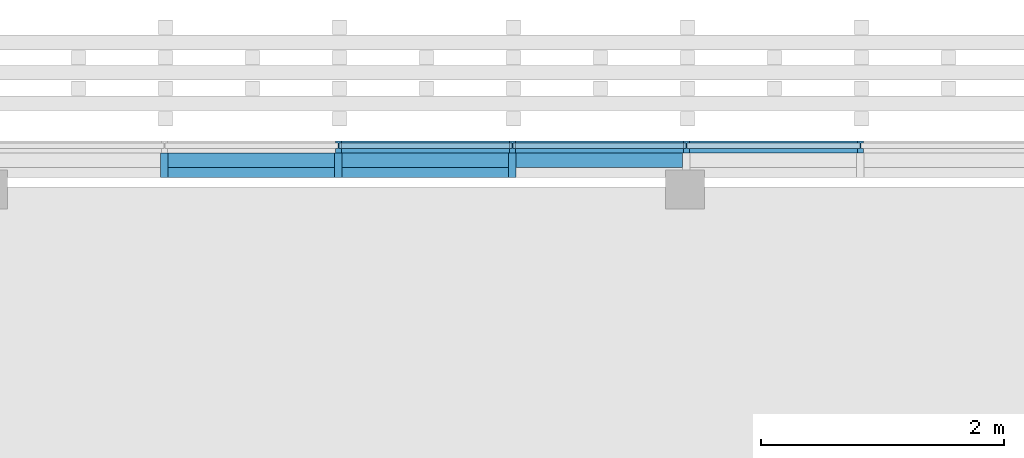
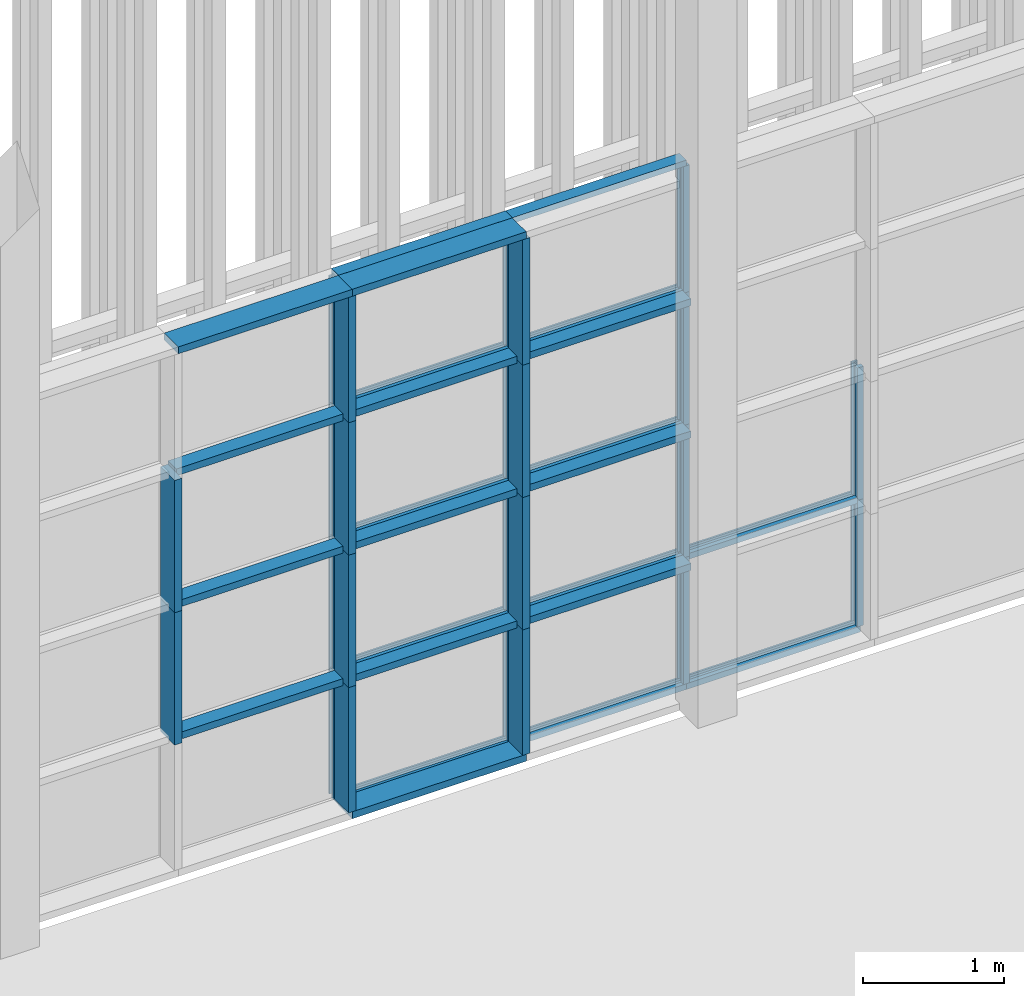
# One storey, part 32 of 260: 48 members, 2 elements without a shape of their own.
"""IFC2X3 building model written with IfcOpenShell, lengths in millimetres."""

from ifc_helpers import new_model, entity, si_unit, converted_unit, derived_unit, money_unit, direction, frame, origin_with_axes, place, context, subcontext, project, spatial, faceted_brep, source, transform, mapped, material, type_object, element, aggregate, save


model = new_model("IFC2X3")

# Units and contexts
model_context = context("Model", 3, precision=0.01, world=origin_with_axes(), true_north=direction((0.0, 1.0)))
body_context = subcontext(model_context, "Body", "Model", "MODEL_VIEW")
ifc_project = project(units=[si_unit("LENGTHUNIT", "METRE", prefix="MILLI"), si_unit("AREAUNIT", "SQUARE_METRE"), si_unit("VOLUMEUNIT", "CUBIC_METRE"), converted_unit("PLANEANGLEUNIT", "DEGREE", entity("IfcPlaneAngleMeasure", 0.0174532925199), si_unit("PLANEANGLEUNIT", "RADIAN"), dimensions=[0, 0, 0, 0, 0, 0, 0]), money_unit("EUR"), converted_unit("TIMEUNIT", "Year", entity("IfcTimeMeasure", 31556926.0), si_unit("TIMEUNIT", "SECOND"), dimensions=[0, 0, 1, 0, 0, 0, 0]), si_unit("MASSUNIT", "GRAM", prefix="KILO"), si_unit("THERMODYNAMICTEMPERATUREUNIT", "DEGREE_CELSIUS"), si_unit("LUMINOUSINTENSITYUNIT", "LUMEN"), si_unit("ENERGYUNIT", "JOULE", prefix="MEGA"), derived_unit("THERMALCONDUCTANCEUNIT", [(si_unit("POWERUNIT", "WATT"), 1), (si_unit("LENGTHUNIT", "METRE"), -1), (si_unit("THERMODYNAMICTEMPERATUREUNIT", "KELVIN"), -1)]), derived_unit("SPECIFICHEATCAPACITYUNIT", [(si_unit("ENERGYUNIT", "JOULE"), 1), (si_unit("MASSUNIT", "GRAM", prefix="KILO"), -1), (si_unit("THERMODYNAMICTEMPERATUREUNIT", "KELVIN"), -1)]), derived_unit("MASSDENSITYUNIT", [(si_unit("MASSUNIT", "GRAM", prefix="KILO"), 1), (si_unit("VOLUMEUNIT", "CUBIC_METRE"), -1)])], contexts=[model_context])

# Site, building, storey
site_placement = place(None, origin_with_axes())
site = spatial("IfcSite", under=ifc_project, at=site_placement, Name="Kolde pst 67a", CompositionType="ELEMENT")
building_placement = place(site_placement, origin_with_axes())
building = spatial("IfcBuilding", under=site, at=building_placement, Name="Riigigümnaasium", CompositionType="ELEMENT")
storey_placement = place(building_placement, origin_with_axes())
storey = spatial("IfcBuildingStorey", under=building, at=storey_placement, Name="1. korrus", CompositionType="ELEMENT", Elevation=0.0)

# Curtain wall, members
curtain_wall_type = type_object("IfcCurtainWallType", Name="Curtain Wall Type", PredefinedType="NOTDEFINED")
curtain_wall_1_placement = place(storey_placement, frame((10366.0828546, 84639.9999608, 0.0), z_axis=(0.0, 0.0, 1.0), x_axis=(1.0, 0.0, 0.0)))
curtain_wall_1 = element("IfcCurtainWall", 1, at=curtain_wall_1_placement, inside=storey, type_object=curtain_wall_type, Name="KLAASFASSAAD")
ifc_material_1 = material(Name="_METALL - alumiinium")
member_type_1 = type_object("IfcMemberType", Name="Boundary Frame 50 x 100", PredefinedType="MEMBER")
shared_shape_1 = source(origin_with_axes(), body_context, "Body", "Brep", [
    faceted_brep([(-30.0, -24.0, 1430.0), (-50.0, -24.0, 1430.0), (-50.0, -60.0, 1430.0), (0.0, -60.0, 1430.0), (0.0, 40.0, 1430.0), (-50.0, 40.0, 1430.0), (-50.0, 24.0, 1430.0), (-30.0, 24.0, 1430.0), (-30.0, -24.0, 0.0), (-50.0, -24.0, 0.0), (-50.0, -60.0, 0.0), (0.0, -60.0, 0.0), (0.0, 40.0, 0.0), (-50.0, 40.0, 0.0), (-50.0, 24.0, 0.0), (-30.0, 24.0, 0.0)], [[[0, 1, 2, 3, 4, 5, 6, 7]], [[0, 8, 9, 1]], [[9, 10, 2, 1]], [[10, 11, 3, 2]], [[11, 12, 4, 3]], [[12, 13, 5, 4]], [[6, 5, 13, 14]], [[14, 15, 7, 6]], [[7, 15, 8, 0]], [[8, 15, 14, 13, 12, 11, 10, 9]]]),
])
member_1_placement = place(curtain_wall_1_placement, frame((2145.0, 0.0, 0.0), z_axis=(1.0, 0.0, 0.0), x_axis=(0.0, 0.0, 1.0)))
member_1 = element("IfcMember", 2, at=member_1_placement, type_object=member_type_1, material=ifc_material_1, Name="RF RAAM SERV-078", ObjectType="MEMBER", context=body_context, shape_type="MappedRepresentation", body=[
    mapped(shared_shape_1, transform((0.0, 0.0, 0.0), x_axis=(-1.0, 0.0, 0.0), y_axis=(0.0, -1.0, 0.0), z_axis=(0.0, 0.0, 1.0))),
])
member_2_placement = place(curtain_wall_1_placement, frame((3575.0, 0.0, 0.0), z_axis=(1.0, 0.0, 0.0), x_axis=(0.0, 0.0, 1.0)))
member_2 = element("IfcMember", 3, at=member_2_placement, type_object=member_type_1, material=ifc_material_1, Name="RF RAAM SERV-079", ObjectType="MEMBER", context=body_context, shape_type="MappedRepresentation", body=[
    mapped(shared_shape_1, transform((0.0, 0.0, 0.0), x_axis=(-1.0, 0.0, 0.0), y_axis=(0.0, -1.0, 0.0), z_axis=(0.0, 0.0, 1.0))),
])
member_3_placement = place(curtain_wall_1_placement, frame((5005.0, 0.0, 0.0), z_axis=(1.0, 0.0, 0.0), x_axis=(0.0, 0.0, 1.0)))
member_3 = element("IfcMember", 4, at=member_3_placement, type_object=member_type_1, material=ifc_material_1, Name="RF RAAM SERV-080", ObjectType="MEMBER", context=body_context, shape_type="MappedRepresentation", body=[
    mapped(shared_shape_1, transform((0.0, 0.0, 0.0), x_axis=(-1.0, 0.0, 0.0), y_axis=(0.0, -1.0, 0.0), z_axis=(0.0, 0.0, 1.0))),
])
member_type_2 = type_object("IfcMemberType", Name="Transom Frame 50 x 100", PredefinedType="MEMBER")
shared_shape_2 = source(origin_with_axes(), body_context, "Body", "Brep", [
    faceted_brep([(5.0, -24.0, 1405.0), (5.0, 24.0, 1405.0), (25.0, 24.0, 1405.0), (25.0, 40.0, 1405.0), (-25.0, 40.0, 1405.0), (-25.0, 24.0, 1405.0), (-5.0, 24.0, 1405.0), (-5.0, -24.0, 1405.0), (-25.0, -24.0, 1405.0), (-25.0, -60.0, 1405.0), (25.0, -60.0, 1405.0), (25.0, -24.0, 1405.0), (5.0, -24.0, 25.0), (5.0, 24.0, 25.0), (25.0, 24.0, 25.0), (25.0, 40.0, 25.0), (-25.0, 40.0, 25.0), (-25.0, 24.0, 25.0), (-5.0, 24.0, 25.0), (-5.0, -24.0, 25.0), (-25.0, -24.0, 25.0), (-25.0, -60.0, 25.0), (25.0, -60.0, 25.0), (25.0, -24.0, 25.0)], [[[0, 1, 2, 3, 4, 5, 6, 7, 8, 9, 10, 11]], [[0, 12, 13, 1]], [[1, 13, 14, 2]], [[14, 15, 3, 2]], [[4, 3, 15, 16]], [[17, 5, 4, 16]], [[5, 17, 18, 6]], [[7, 6, 18, 19]], [[8, 7, 19, 20]], [[8, 20, 21, 9]], [[10, 9, 21, 22]], [[11, 10, 22, 23]], [[11, 23, 12, 0]], [[13, 12, 23, 22, 21, 20, 19, 18, 17, 16, 15, 14]]]),
])
member_4_placement = place(curtain_wall_1_placement, frame((2145.0, 0.0, 1150.0), z_axis=(1.0, 0.0, 0.0), x_axis=(0.0, 0.0, 1.0)))
member_4 = element("IfcMember", 5, at=member_4_placement, type_object=member_type_2, material=ifc_material_1, Name="RF RAAM HOR-798", ObjectType="MEMBER", context=body_context, shape_type="MappedRepresentation", body=[
    mapped(shared_shape_2, transform((0.0, 0.0, 0.0), x_axis=(-1.0, 0.0, 0.0), y_axis=(0.0, -1.0, 0.0), z_axis=(0.0, 0.0, 1.0))),
])
member_5_placement = place(curtain_wall_1_placement, frame((3575.0, 0.0, 1150.0), z_axis=(1.0, 0.0, 0.0), x_axis=(0.0, 0.0, 1.0)))
member_5 = element("IfcMember", 6, at=member_5_placement, type_object=member_type_2, material=ifc_material_1, Name="RF RAAM HOR-798", ObjectType="MEMBER", context=body_context, shape_type="MappedRepresentation", body=[
    mapped(shared_shape_2, transform((0.0, 0.0, 0.0), x_axis=(-1.0, 0.0, 0.0), y_axis=(0.0, -1.0, 0.0), z_axis=(0.0, 0.0, 1.0))),
])
member_6_placement = place(curtain_wall_1_placement, frame((5005.0, 0.0, 1150.0), z_axis=(1.0, 0.0, 0.0), x_axis=(0.0, 0.0, 1.0)))
member_6 = element("IfcMember", 7, at=member_6_placement, type_object=member_type_2, material=ifc_material_1, Name="RF RAAM HOR-798", ObjectType="MEMBER", context=body_context, shape_type="MappedRepresentation", body=[
    mapped(shared_shape_2, transform((0.0, 0.0, 0.0), x_axis=(-1.0, 0.0, 0.0), y_axis=(0.0, -1.0, 0.0), z_axis=(0.0, 0.0, 1.0))),
])
member_7_placement = place(curtain_wall_1_placement, frame((2145.0, 0.0, 2300.0), z_axis=(1.0, 0.0, 0.0), x_axis=(0.0, 0.0, 1.0)))
member_7 = element("IfcMember", 8, at=member_7_placement, type_object=member_type_2, material=ifc_material_1, Name="RF RAAM HOR-798", ObjectType="MEMBER", context=body_context, shape_type="MappedRepresentation", body=[
    mapped(shared_shape_2, transform((0.0, 0.0, 0.0), x_axis=(-1.0, 0.0, 0.0), y_axis=(0.0, -1.0, 0.0), z_axis=(0.0, 0.0, 1.0))),
])
member_8_placement = place(curtain_wall_1_placement, frame((3575.0, 0.0, 2300.0), z_axis=(1.0, 0.0, 0.0), x_axis=(0.0, 0.0, 1.0)))
member_8 = element("IfcMember", 9, at=member_8_placement, type_object=member_type_2, material=ifc_material_1, Name="RF RAAM HOR-798", ObjectType="MEMBER", context=body_context, shape_type="MappedRepresentation", body=[
    mapped(shared_shape_2, transform((0.0, 0.0, 0.0), x_axis=(-1.0, 0.0, 0.0), y_axis=(0.0, -1.0, 0.0), z_axis=(0.0, 0.0, 1.0))),
])
member_9_placement = place(curtain_wall_1_placement, frame((2145.0, 0.0, 3450.0), z_axis=(1.0, 0.0, 0.0), x_axis=(0.0, 0.0, 1.0)))
member_9 = element("IfcMember", 10, at=member_9_placement, type_object=member_type_2, material=ifc_material_1, Name="RF RAAM HOR-798", ObjectType="MEMBER", context=body_context, shape_type="MappedRepresentation", body=[
    mapped(shared_shape_2, transform((0.0, 0.0, 0.0), x_axis=(-1.0, 0.0, 0.0), y_axis=(0.0, -1.0, 0.0), z_axis=(0.0, 0.0, 1.0))),
])
member_10_placement = place(curtain_wall_1_placement, frame((3575.0, 0.0, 3450.0), z_axis=(1.0, 0.0, 0.0), x_axis=(0.0, 0.0, 1.0)))
member_10 = element("IfcMember", 11, at=member_10_placement, type_object=member_type_2, material=ifc_material_1, Name="RF RAAM HOR-798", ObjectType="MEMBER", context=body_context, shape_type="MappedRepresentation", body=[
    mapped(shared_shape_2, transform((0.0, 0.0, 0.0), x_axis=(-1.0, 0.0, 0.0), y_axis=(0.0, -1.0, 0.0), z_axis=(0.0, 0.0, 1.0))),
])
member_type_3 = type_object("IfcMemberType", Name="Mullion Frame 50 x 100", PredefinedType="MEMBER")
shared_shape_3 = source(origin_with_axes(), body_context, "Body", "Brep", [
    faceted_brep([(5.0, -24.0, 1150.0), (5.0, 24.0, 1150.0), (25.0, 24.0, 1150.0), (25.0, 40.0, 1150.0), (-25.0, 40.0, 1150.0), (-25.0, 24.0, 1150.0), (-5.0, 24.0, 1150.0), (-5.0, -24.0, 1150.0), (-25.0, -24.0, 1150.0), (-25.0, -60.0, 1150.0), (25.0, -60.0, 1150.0), (25.0, -24.0, 1150.0), (5.0, -24.0, 50.0), (5.0, 24.0, 50.0), (25.0, 24.0, 50.0), (25.0, 40.0, 50.0), (-25.0, 40.0, 50.0), (-25.0, 24.0, 50.0), (-5.0, 24.0, 50.0), (-5.0, -24.0, 50.0), (-25.0, -24.0, 50.0), (-25.0, -60.0, 50.0), (25.0, -60.0, 50.0), (25.0, -24.0, 50.0)], [[[0, 1, 2, 3, 4, 5, 6, 7, 8, 9, 10, 11]], [[0, 12, 13, 1]], [[1, 13, 14, 2]], [[14, 15, 3, 2]], [[4, 3, 15, 16]], [[17, 5, 4, 16]], [[5, 17, 18, 6]], [[7, 6, 18, 19]], [[8, 7, 19, 20]], [[8, 20, 21, 9]], [[10, 9, 21, 22]], [[11, 10, 22, 23]], [[11, 23, 12, 0]], [[13, 12, 23, 22, 21, 20, 19, 18, 17, 16, 15, 14]]]),
])
member_11_placement = place(curtain_wall_1_placement, frame((2145.0, 0.0, 0.0), z_axis=(0.0, 0.0, 1.0), x_axis=(-1.0, 0.0, 0.0)))
member_11 = element("IfcMember", 12, at=member_11_placement, type_object=member_type_3, material=ifc_material_1, Name="RF RAAM VERT-904", ObjectType="MEMBER", context=body_context, shape_type="MappedRepresentation", body=[
    mapped(shared_shape_3, transform((0.0, 0.0, 0.0), x_axis=(-1.0, 0.0, 0.0), y_axis=(0.0, -1.0, 0.0), z_axis=(0.0, 0.0, 1.0))),
])
member_12_placement = place(curtain_wall_1_placement, frame((3575.0, 0.0, 0.0), z_axis=(0.0, 0.0, 1.0), x_axis=(-1.0, 0.0, 0.0)))
member_12 = element("IfcMember", 13, at=member_12_placement, type_object=member_type_3, material=ifc_material_1, Name="RF RAAM VERT-904", ObjectType="MEMBER", context=body_context, shape_type="MappedRepresentation", body=[
    mapped(shared_shape_3, transform((0.0, 0.0, 0.0), x_axis=(-1.0, 0.0, 0.0), y_axis=(0.0, -1.0, 0.0), z_axis=(0.0, 0.0, 1.0))),
])
member_13_placement = place(curtain_wall_1_placement, frame((5005.0, 0.0, 0.0), z_axis=(0.0, 0.0, 1.0), x_axis=(-1.0, 0.0, 0.0)))
member_13 = element("IfcMember", 14, at=member_13_placement, type_object=member_type_3, material=ifc_material_1, Name="RF RAAM VERT-904", ObjectType="MEMBER", context=body_context, shape_type="MappedRepresentation", body=[
    mapped(shared_shape_3, transform((0.0, 0.0, 0.0), x_axis=(-1.0, 0.0, 0.0), y_axis=(0.0, -1.0, 0.0), z_axis=(0.0, 0.0, 1.0))),
])
member_14_placement = place(curtain_wall_1_placement, frame((6435.0, 0.0, 0.0), z_axis=(0.0, 0.0, 1.0), x_axis=(-1.0, 0.0, 0.0)))
member_14 = element("IfcMember", 15, at=member_14_placement, type_object=member_type_3, material=ifc_material_1, Name="RF RAAM VERT-904", ObjectType="MEMBER", context=body_context, shape_type="MappedRepresentation", body=[
    mapped(shared_shape_3, transform((0.0, 0.0, 0.0), x_axis=(-1.0, 0.0, 0.0), y_axis=(0.0, -1.0, 0.0), z_axis=(0.0, 0.0, 1.0))),
])
shared_shape_4 = source(origin_with_axes(), body_context, "Body", "Brep", [
    faceted_brep([(5.0, -24.0, 1150.0), (5.0, 24.0, 1150.0), (25.0, 24.0, 1150.0), (25.0, 40.0, 1150.0), (-25.0, 40.0, 1150.0), (-25.0, 24.0, 1150.0), (-5.0, 24.0, 1150.0), (-5.0, -24.0, 1150.0), (-25.0, -24.0, 1150.0), (-25.0, -60.0, 1150.0), (25.0, -60.0, 1150.0), (25.0, -24.0, 1150.0), (5.0, -24.0, 0.0), (5.0, 24.0, 0.0), (25.0, 24.0, 0.0), (25.0, 40.0, 0.0), (-25.0, 40.0, 0.0), (-25.0, 24.0, 0.0), (-5.0, 24.0, 0.0), (-5.0, -24.0, 0.0), (-25.0, -24.0, 0.0), (-25.0, -60.0, 0.0), (25.0, -60.0, 0.0), (25.0, -24.0, 0.0)], [[[0, 1, 2, 3, 4, 5, 6, 7, 8, 9, 10, 11]], [[0, 12, 13, 1]], [[1, 13, 14, 2]], [[14, 15, 3, 2]], [[3, 15, 16, 4]], [[17, 5, 4, 16]], [[5, 17, 18, 6]], [[7, 6, 18, 19]], [[8, 7, 19, 20]], [[8, 20, 21, 9]], [[9, 21, 22, 10]], [[11, 10, 22, 23]], [[11, 23, 12, 0]], [[13, 12, 23, 22, 21, 20, 19, 18, 17, 16, 15, 14]]]),
])
member_15_placement = place(curtain_wall_1_placement, frame((2145.0, 0.0, 1150.0), z_axis=(0.0, 0.0, 1.0), x_axis=(-1.0, 0.0, 0.0)))
member_15 = element("IfcMember", 16, at=member_15_placement, type_object=member_type_3, material=ifc_material_1, Name="RF RAAM VERT-904", ObjectType="MEMBER", context=body_context, shape_type="MappedRepresentation", body=[
    mapped(shared_shape_4, transform((0.0, 0.0, 0.0), x_axis=(-1.0, 0.0, 0.0), y_axis=(0.0, -1.0, 0.0), z_axis=(0.0, 0.0, 1.0))),
])
member_16_placement = place(curtain_wall_1_placement, frame((3575.0, 0.0, 1150.0), z_axis=(0.0, 0.0, 1.0), x_axis=(-1.0, 0.0, 0.0)))
member_16 = element("IfcMember", 17, at=member_16_placement, type_object=member_type_3, material=ifc_material_1, Name="RF RAAM VERT-904", ObjectType="MEMBER", context=body_context, shape_type="MappedRepresentation", body=[
    mapped(shared_shape_4, transform((0.0, 0.0, 0.0), x_axis=(-1.0, 0.0, 0.0), y_axis=(0.0, -1.0, 0.0), z_axis=(0.0, 0.0, 1.0))),
])
member_17_placement = place(curtain_wall_1_placement, frame((5005.0, 0.0, 1150.0), z_axis=(0.0, 0.0, 1.0), x_axis=(-1.0, 0.0, 0.0)))
member_17 = element("IfcMember", 18, at=member_17_placement, type_object=member_type_3, material=ifc_material_1, Name="RF RAAM VERT-904", ObjectType="MEMBER", context=body_context, shape_type="MappedRepresentation", body=[
    mapped(shared_shape_4, transform((0.0, 0.0, 0.0), x_axis=(-1.0, 0.0, 0.0), y_axis=(0.0, -1.0, 0.0), z_axis=(0.0, 0.0, 1.0))),
])
member_18_placement = place(curtain_wall_1_placement, frame((6435.0, 0.0, 1150.0), z_axis=(0.0, 0.0, 1.0), x_axis=(-1.0, 0.0, 0.0)))
member_18 = element("IfcMember", 19, at=member_18_placement, type_object=member_type_3, material=ifc_material_1, Name="RF RAAM VERT-904", ObjectType="MEMBER", context=body_context, shape_type="MappedRepresentation", body=[
    mapped(shared_shape_4, transform((0.0, 0.0, 0.0), x_axis=(-1.0, 0.0, 0.0), y_axis=(0.0, -1.0, 0.0), z_axis=(0.0, 0.0, 1.0))),
])
member_19_placement = place(curtain_wall_1_placement, frame((2145.0, 0.0, 2300.0), z_axis=(0.0, 0.0, 1.0), x_axis=(-1.0, 0.0, 0.0)))
member_19 = element("IfcMember", 20, at=member_19_placement, type_object=member_type_3, material=ifc_material_1, Name="RF RAAM VERT-904", ObjectType="MEMBER", context=body_context, shape_type="MappedRepresentation", body=[
    mapped(shared_shape_4, transform((0.0, 0.0, 0.0), x_axis=(-1.0, 0.0, 0.0), y_axis=(0.0, -1.0, 0.0), z_axis=(0.0, 0.0, 1.0))),
])
member_20_placement = place(curtain_wall_1_placement, frame((3575.0, 0.0, 2300.0), z_axis=(0.0, 0.0, 1.0), x_axis=(-1.0, 0.0, 0.0)))
member_20 = element("IfcMember", 21, at=member_20_placement, type_object=member_type_3, material=ifc_material_1, Name="RF RAAM VERT-904", ObjectType="MEMBER", context=body_context, shape_type="MappedRepresentation", body=[
    mapped(shared_shape_4, transform((0.0, 0.0, 0.0), x_axis=(-1.0, 0.0, 0.0), y_axis=(0.0, -1.0, 0.0), z_axis=(0.0, 0.0, 1.0))),
])
member_21_placement = place(curtain_wall_1_placement, frame((5005.0, 0.0, 2300.0), z_axis=(0.0, 0.0, 1.0), x_axis=(-1.0, 0.0, 0.0)))
member_21 = element("IfcMember", 22, at=member_21_placement, type_object=member_type_3, material=ifc_material_1, Name="RF RAAM VERT-904", ObjectType="MEMBER", context=body_context, shape_type="MappedRepresentation", body=[
    mapped(shared_shape_4, transform((0.0, 0.0, 0.0), x_axis=(-1.0, 0.0, 0.0), y_axis=(0.0, -1.0, 0.0), z_axis=(0.0, 0.0, 1.0))),
])
shared_shape_5 = source(origin_with_axes(), body_context, "Body", "Brep", [
    faceted_brep([(5.0, -24.0, 1100.0), (5.0, 24.0, 1100.0), (25.0, 24.0, 1100.0), (25.0, 40.0, 1100.0), (-25.0, 40.0, 1100.0), (-25.0, 24.0, 1100.0), (-5.0, 24.0, 1100.0), (-5.0, -24.0, 1100.0), (-25.0, -24.0, 1100.0), (-25.0, -60.0, 1100.0), (25.0, -60.0, 1100.0), (25.0, -24.0, 1100.0), (5.0, -24.0, 0.0), (5.0, 24.0, 0.0), (25.0, 24.0, 0.0), (25.0, 40.0, 0.0), (-25.0, 40.0, 0.0), (-25.0, 24.0, 0.0), (-5.0, 24.0, 0.0), (-5.0, -24.0, 0.0), (-25.0, -24.0, 0.0), (-25.0, -60.0, 0.0), (25.0, -60.0, 0.0), (25.0, -24.0, 0.0)], [[[0, 1, 2, 3, 4, 5, 6, 7, 8, 9, 10, 11]], [[0, 12, 13, 1]], [[1, 13, 14, 2]], [[14, 15, 3, 2]], [[3, 15, 16, 4]], [[17, 5, 4, 16]], [[5, 17, 18, 6]], [[7, 6, 18, 19]], [[8, 7, 19, 20]], [[8, 20, 21, 9]], [[9, 21, 22, 10]], [[11, 10, 22, 23]], [[11, 23, 12, 0]], [[13, 12, 23, 22, 21, 20, 19, 18, 17, 16, 15, 14]]]),
])
member_22_placement = place(curtain_wall_1_placement, frame((2145.0, 0.0, 3450.0), z_axis=(0.0, 0.0, 1.0), x_axis=(-1.0, 0.0, 0.0)))
member_22 = element("IfcMember", 23, at=member_22_placement, type_object=member_type_3, material=ifc_material_1, Name="RF RAAM VERT-226", ObjectType="MEMBER", context=body_context, shape_type="MappedRepresentation", body=[
    mapped(shared_shape_5, transform((0.0, 0.0, 0.0), x_axis=(-1.0, 0.0, 0.0), y_axis=(0.0, -1.0, 0.0), z_axis=(0.0, 0.0, 1.0))),
])
member_23_placement = place(curtain_wall_1_placement, frame((3575.0, 0.0, 3450.0), z_axis=(0.0, 0.0, 1.0), x_axis=(-1.0, 0.0, 0.0)))
member_23 = element("IfcMember", 24, at=member_23_placement, type_object=member_type_3, material=ifc_material_1, Name="RF RAAM VERT-227", ObjectType="MEMBER", context=body_context, shape_type="MappedRepresentation", body=[
    mapped(shared_shape_5, transform((0.0, 0.0, 0.0), x_axis=(-1.0, 0.0, 0.0), y_axis=(0.0, -1.0, 0.0), z_axis=(0.0, 0.0, 1.0))),
])
member_24_placement = place(curtain_wall_1_placement, frame((5005.0, 0.0, 3450.0), z_axis=(0.0, 0.0, 1.0), x_axis=(-1.0, 0.0, 0.0)))
member_24 = element("IfcMember", 25, at=member_24_placement, type_object=member_type_3, material=ifc_material_1, Name="RF RAAM VERT-228", ObjectType="MEMBER", context=body_context, shape_type="MappedRepresentation", body=[
    mapped(shared_shape_5, transform((0.0, 0.0, 0.0), x_axis=(-1.0, 0.0, 0.0), y_axis=(0.0, -1.0, 0.0), z_axis=(0.0, 0.0, 1.0))),
])
shared_shape_6 = source(origin_with_axes(), body_context, "Body", "Brep", [
    faceted_brep([(30.0, -24.0, 1430.0), (30.0, 24.0, 1430.0), (50.0, 24.0, 1430.0), (50.0, 40.0, 1430.0), (0.0, 40.0, 1430.0), (0.0, -60.0, 1430.0), (50.0, -60.0, 1430.0), (50.0, -24.0, 1430.0), (30.0, -24.0, 0.0), (30.0, 24.0, 0.0), (50.0, 24.0, 0.0), (50.0, 40.0, 0.0), (0.0, 40.0, 0.0), (0.0, -60.0, 0.0), (50.0, -60.0, 0.0), (50.0, -24.0, 0.0)], [[[0, 1, 2, 3, 4, 5, 6, 7]], [[1, 0, 8, 9]], [[10, 2, 1, 9]], [[2, 10, 11, 3]], [[12, 4, 3, 11]], [[13, 5, 4, 12]], [[14, 6, 5, 13]], [[15, 7, 6, 14]], [[0, 7, 15, 8]], [[8, 15, 14, 13, 12, 11, 10, 9]]]),
])
member_25_placement = place(curtain_wall_1_placement, frame((2145.0, 0.0, 4600.0), z_axis=(1.0, 0.0, 0.0), x_axis=(0.0, 0.0, 1.0)))
member_25 = element("IfcMember", 26, at=member_25_placement, type_object=member_type_1, material=ifc_material_1, Name="RF RAAM SERV-115", ObjectType="MEMBER", context=body_context, shape_type="MappedRepresentation", body=[
    mapped(shared_shape_6, transform((0.0, 0.0, 0.0), x_axis=(-1.0, 0.0, 0.0), y_axis=(0.0, -1.0, 0.0), z_axis=(0.0, 0.0, 1.0))),
])
member_26_placement = place(curtain_wall_1_placement, frame((3575.0, 0.0, 4600.0), z_axis=(1.0, 0.0, 0.0), x_axis=(0.0, 0.0, 1.0)))
member_26 = element("IfcMember", 27, at=member_26_placement, type_object=member_type_1, material=ifc_material_1, Name="RF RAAM SERV-114", ObjectType="MEMBER", context=body_context, shape_type="MappedRepresentation", body=[
    mapped(shared_shape_6, transform((0.0, 0.0, 0.0), x_axis=(-1.0, 0.0, 0.0), y_axis=(0.0, -1.0, 0.0), z_axis=(0.0, 0.0, 1.0))),
])
aggregate(curtain_wall_1, [member_1, member_11, member_2, member_12, member_3, member_13, member_14, member_4, member_15, member_5, member_16, member_6, member_17, member_18, member_7, member_19, member_8, member_20, member_21, member_9, member_10, member_22, member_23, member_24, member_25, member_26])

curtain_wall_2_placement = place(storey_placement, frame((7516.12873899, 84579.9999608, 0.0), z_axis=(0.0, 0.0, 1.0), x_axis=(1.0, 0.0, 0.0)))
curtain_wall_2 = element("IfcCurtainWall", 28, at=curtain_wall_2_placement, inside=storey, type_object=curtain_wall_type, Name="Klaasfassaadi puitkarkass")
ifc_material_2 = material(Name="_KANDETARIND - liimpuit vastavalt EK osale")
member_type_4 = type_object("IfcMemberType", Name="Mullion Frame 60 x 200", PredefinedType="MEMBER")
shared_shape_7 = source(origin_with_axes(), body_context, "Body", "Brep", [
    faceted_brep([(-30.0, -200.0, 0.0), (-30.0, -200.0, 1090.0), (-30.0, 0.0, 1090.0), (-30.0, 0.0, 0.0), (30.0, -200.0, 0.0), (30.0, -200.0, 1090.0), (30.0, 0.0, 1090.0), (30.0, 0.0, 0.0)], [[[0, 1, 2, 3]], [[4, 5, 1, 0]], [[1, 5, 6, 2]], [[3, 2, 6, 7]], [[0, 3, 7, 4]], [[7, 6, 5, 4]]]),
])
member_27_placement = place(curtain_wall_2_placement, frame((6423.62846741, 0.0, 3450.0), z_axis=(0.0, 0.0, 1.0), x_axis=(-1.0, 0.0, 0.0)))
member_27 = element("IfcMember", 29, at=member_27_placement, type_object=member_type_4, material=ifc_material_2, Name="RF RAAM VERT-675", ObjectType="MEMBER", context=body_context, shape_type="MappedRepresentation", body=[
    mapped(shared_shape_7, transform((0.0, 0.0, 0.0), x_axis=(-1.0, 0.0, 0.0), y_axis=(0.0, -1.0, 0.0), z_axis=(0.0, 0.0, 1.0))),
])
member_28_placement = place(curtain_wall_2_placement, frame((4993.62846741, 0.0, 3450.0), z_axis=(0.0, 0.0, 1.0), x_axis=(-1.0, 0.0, 0.0)))
member_28 = element("IfcMember", 30, at=member_28_placement, type_object=member_type_4, material=ifc_material_2, Name="RF RAAM VERT-674", ObjectType="MEMBER", context=body_context, shape_type="MappedRepresentation", body=[
    mapped(shared_shape_7, transform((0.0, 0.0, 0.0), x_axis=(-1.0, 0.0, 0.0), y_axis=(0.0, -1.0, 0.0), z_axis=(0.0, 0.0, 1.0))),
])
member_type_5 = type_object("IfcMemberType", Name="Boundary Frame 60 x 200", PredefinedType="MEMBER")
shared_shape_8 = source(origin_with_axes(), body_context, "Body", "Brep", [
    faceted_brep([(-60.0, -200.0, 0.0), (-60.0, -200.0, 1430.0), (-60.0, 0.0, 1430.0), (-60.0, 0.0, 0.0), (0.0, -200.0, 0.0), (0.0, -200.0, 1430.0), (0.0, 0.0, 1430.0), (0.0, 0.0, 0.0)], [[[0, 1, 2, 3]], [[4, 5, 1, 0]], [[1, 5, 6, 2]], [[3, 2, 6, 7]], [[0, 3, 7, 4]], [[7, 6, 5, 4]]]),
])
member_29_placement = place(curtain_wall_2_placement, frame((4993.62846741, 0.0, 0.0), z_axis=(1.0, 0.0, 0.0), x_axis=(0.0, 0.0, 1.0)))
member_29 = element("IfcMember", 31, at=member_29_placement, type_object=member_type_5, material=ifc_material_2, Name="RF RAAM SERV-414", ObjectType="MEMBER", context=body_context, shape_type="MappedRepresentation", body=[
    mapped(shared_shape_8, transform((0.0, 0.0, 0.0), x_axis=(-1.0, 0.0, 0.0), y_axis=(0.0, -1.0, 0.0), z_axis=(0.0, 0.0, 1.0))),
])
shared_shape_9 = source(origin_with_axes(), body_context, "Body", "Brep", [
    faceted_brep([(-30.0, 0.0, 60.0), (-30.0, -200.0, 60.0), (-30.0, -200.0, 1150.0), (-30.0, 0.0, 1150.0), (30.0, 0.0, 60.0), (30.0, -200.0, 60.0), (30.0, -200.0, 1150.0), (30.0, 0.0, 1150.0)], [[[0, 1, 2, 3]], [[1, 0, 4, 5]], [[1, 5, 6, 2]], [[2, 6, 7, 3]], [[4, 0, 3, 7]], [[5, 4, 7, 6]]]),
])
member_30_placement = place(curtain_wall_2_placement, frame((4993.62846741, 0.0, 0.0), z_axis=(0.0, 0.0, 1.0), x_axis=(-1.0, 0.0, 0.0)))
member_30 = element("IfcMember", 32, at=member_30_placement, type_object=member_type_4, material=ifc_material_2, Name="RF RAAM VERT-459", ObjectType="MEMBER", context=body_context, shape_type="MappedRepresentation", body=[
    mapped(shared_shape_9, transform((0.0, 0.0, 0.0), x_axis=(-1.0, 0.0, 0.0), y_axis=(0.0, -1.0, 0.0), z_axis=(0.0, 0.0, 1.0))),
])
member_31_placement = place(curtain_wall_2_placement, frame((6423.62846741, 0.0, 0.0), z_axis=(0.0, 0.0, 1.0), x_axis=(-1.0, 0.0, 0.0)))
member_31 = element("IfcMember", 33, at=member_31_placement, type_object=member_type_4, material=ifc_material_2, Name="RF RAAM VERT-460", ObjectType="MEMBER", context=body_context, shape_type="MappedRepresentation", body=[
    mapped(shared_shape_9, transform((0.0, 0.0, 0.0), x_axis=(-1.0, 0.0, 0.0), y_axis=(0.0, -1.0, 0.0), z_axis=(0.0, 0.0, 1.0))),
])
member_type_6 = type_object("IfcMemberType", Name="Transom Frame 60 x 120", PredefinedType="MEMBER")
shared_shape_10 = source(origin_with_axes(), body_context, "Body", "Brep", [
    faceted_brep([(-30.0, 0.0, 30.0), (-30.0, -120.0, 30.0), (-30.0, -120.0, 1400.0), (-30.0, 0.0, 1400.0), (30.0, 0.0, 30.0), (30.0, -120.0, 30.0), (30.0, -120.0, 1400.0), (30.0, 0.0, 1400.0)], [[[0, 1, 2, 3]], [[1, 0, 4, 5]], [[1, 5, 6, 2]], [[2, 6, 7, 3]], [[4, 0, 3, 7]], [[5, 4, 7, 6]]]),
])
member_32_placement = place(curtain_wall_2_placement, frame((3563.62846741, 0.0, 1150.0), z_axis=(1.0, 0.0, 0.0), x_axis=(0.0, 0.0, 1.0)))
member_32 = element("IfcMember", 34, at=member_32_placement, type_object=member_type_6, material=ifc_material_2, Name="RF RAAM HOR-453", ObjectType="MEMBER", context=body_context, shape_type="MappedRepresentation", body=[
    mapped(shared_shape_10, transform((0.0, 0.0, 0.0), x_axis=(-1.0, 0.0, 0.0), y_axis=(0.0, -1.0, 0.0), z_axis=(0.0, 0.0, 1.0))),
])
member_33_placement = place(curtain_wall_2_placement, frame((4993.62846741, 0.0, 1150.0), z_axis=(1.0, 0.0, 0.0), x_axis=(0.0, 0.0, 1.0)))
member_33 = element("IfcMember", 35, at=member_33_placement, type_object=member_type_6, material=ifc_material_2, Name="RF RAAM HOR-454", ObjectType="MEMBER", context=body_context, shape_type="MappedRepresentation", body=[
    mapped(shared_shape_10, transform((0.0, 0.0, 0.0), x_axis=(-1.0, 0.0, 0.0), y_axis=(0.0, -1.0, 0.0), z_axis=(0.0, 0.0, 1.0))),
])
member_34_placement = place(curtain_wall_2_placement, frame((6423.62846741, 0.0, 1150.0), z_axis=(1.0, 0.0, 0.0), x_axis=(0.0, 0.0, 1.0)))
member_34 = element("IfcMember", 36, at=member_34_placement, type_object=member_type_6, material=ifc_material_2, Name="RF RAAM HOR-455", ObjectType="MEMBER", context=body_context, shape_type="MappedRepresentation", body=[
    mapped(shared_shape_10, transform((0.0, 0.0, 0.0), x_axis=(-1.0, 0.0, 0.0), y_axis=(0.0, -1.0, 0.0), z_axis=(0.0, 0.0, 1.0))),
])
member_35_placement = place(curtain_wall_2_placement, frame((3563.62846741, 0.0, 2300.0), z_axis=(1.0, 0.0, 0.0), x_axis=(0.0, 0.0, 1.0)))
member_35 = element("IfcMember", 37, at=member_35_placement, type_object=member_type_6, material=ifc_material_2, Name="RF RAAM HOR-476", ObjectType="MEMBER", context=body_context, shape_type="MappedRepresentation", body=[
    mapped(shared_shape_10, transform((0.0, 0.0, 0.0), x_axis=(-1.0, 0.0, 0.0), y_axis=(0.0, -1.0, 0.0), z_axis=(0.0, 0.0, 1.0))),
])
member_36_placement = place(curtain_wall_2_placement, frame((4993.62846741, 0.0, 2300.0), z_axis=(1.0, 0.0, 0.0), x_axis=(0.0, 0.0, 1.0)))
member_36 = element("IfcMember", 38, at=member_36_placement, type_object=member_type_6, material=ifc_material_2, Name="RF RAAM HOR-477", ObjectType="MEMBER", context=body_context, shape_type="MappedRepresentation", body=[
    mapped(shared_shape_10, transform((0.0, 0.0, 0.0), x_axis=(-1.0, 0.0, 0.0), y_axis=(0.0, -1.0, 0.0), z_axis=(0.0, 0.0, 1.0))),
])
member_37_placement = place(curtain_wall_2_placement, frame((6423.62846741, 0.0, 2300.0), z_axis=(1.0, 0.0, 0.0), x_axis=(0.0, 0.0, 1.0)))
member_37 = element("IfcMember", 39, at=member_37_placement, type_object=member_type_6, material=ifc_material_2, Name="RF RAAM HOR-478", ObjectType="MEMBER", context=body_context, shape_type="MappedRepresentation", body=[
    mapped(shared_shape_10, transform((0.0, 0.0, 0.0), x_axis=(-1.0, 0.0, 0.0), y_axis=(0.0, -1.0, 0.0), z_axis=(0.0, 0.0, 1.0))),
])
member_38_placement = place(curtain_wall_2_placement, frame((3563.62846741, 0.0, 3450.0), z_axis=(1.0, 0.0, 0.0), x_axis=(0.0, 0.0, 1.0)))
member_38 = element("IfcMember", 40, at=member_38_placement, type_object=member_type_6, material=ifc_material_2, Name="RF RAAM HOR-499", ObjectType="MEMBER", context=body_context, shape_type="MappedRepresentation", body=[
    mapped(shared_shape_10, transform((0.0, 0.0, 0.0), x_axis=(-1.0, 0.0, 0.0), y_axis=(0.0, -1.0, 0.0), z_axis=(0.0, 0.0, 1.0))),
])
member_39_placement = place(curtain_wall_2_placement, frame((4993.62846741, 0.0, 3450.0), z_axis=(1.0, 0.0, 0.0), x_axis=(0.0, 0.0, 1.0)))
member_39 = element("IfcMember", 41, at=member_39_placement, type_object=member_type_6, material=ifc_material_2, Name="RF RAAM HOR-500", ObjectType="MEMBER", context=body_context, shape_type="MappedRepresentation", body=[
    mapped(shared_shape_10, transform((0.0, 0.0, 0.0), x_axis=(-1.0, 0.0, 0.0), y_axis=(0.0, -1.0, 0.0), z_axis=(0.0, 0.0, 1.0))),
])
member_40_placement = place(curtain_wall_2_placement, frame((6423.62846741, 0.0, 3450.0), z_axis=(1.0, 0.0, 0.0), x_axis=(0.0, 0.0, 1.0)))
member_40 = element("IfcMember", 42, at=member_40_placement, type_object=member_type_6, material=ifc_material_2, Name="RF RAAM HOR-501", ObjectType="MEMBER", context=body_context, shape_type="MappedRepresentation", body=[
    mapped(shared_shape_10, transform((0.0, 0.0, 0.0), x_axis=(-1.0, 0.0, 0.0), y_axis=(0.0, -1.0, 0.0), z_axis=(0.0, 0.0, 1.0))),
])
shared_shape_11 = source(origin_with_axes(), body_context, "Body", "Brep", [
    faceted_brep([(-30.0, -200.0, 0.0), (-30.0, -200.0, 1150.0), (-30.0, 0.0, 1150.0), (-30.0, 0.0, 0.0), (30.0, -200.0, 0.0), (30.0, -200.0, 1150.0), (30.0, 0.0, 1150.0), (30.0, 0.0, 0.0)], [[[0, 1, 2, 3]], [[4, 5, 1, 0]], [[1, 5, 6, 2]], [[3, 2, 6, 7]], [[0, 3, 7, 4]], [[7, 6, 5, 4]]]),
])
member_41_placement = place(curtain_wall_2_placement, frame((3563.62846741, 0.0, 1150.0), z_axis=(0.0, 0.0, 1.0), x_axis=(-1.0, 0.0, 0.0)))
member_41 = element("IfcMember", 43, at=member_41_placement, type_object=member_type_4, material=ifc_material_2, Name="RF RAAM VERT-480", ObjectType="MEMBER", context=body_context, shape_type="MappedRepresentation", body=[
    mapped(shared_shape_11, transform((0.0, 0.0, 0.0), x_axis=(-1.0, 0.0, 0.0), y_axis=(0.0, -1.0, 0.0), z_axis=(0.0, 0.0, 1.0))),
])
member_42_placement = place(curtain_wall_2_placement, frame((4993.62846741, 0.0, 1150.0), z_axis=(0.0, 0.0, 1.0), x_axis=(-1.0, 0.0, 0.0)))
member_42 = element("IfcMember", 44, at=member_42_placement, type_object=member_type_4, material=ifc_material_2, Name="RF RAAM VERT-481", ObjectType="MEMBER", context=body_context, shape_type="MappedRepresentation", body=[
    mapped(shared_shape_11, transform((0.0, 0.0, 0.0), x_axis=(-1.0, 0.0, 0.0), y_axis=(0.0, -1.0, 0.0), z_axis=(0.0, 0.0, 1.0))),
])
member_43_placement = place(curtain_wall_2_placement, frame((6423.62846741, 0.0, 1150.0), z_axis=(0.0, 0.0, 1.0), x_axis=(-1.0, 0.0, 0.0)))
member_43 = element("IfcMember", 45, at=member_43_placement, type_object=member_type_4, material=ifc_material_2, Name="RF RAAM VERT-482", ObjectType="MEMBER", context=body_context, shape_type="MappedRepresentation", body=[
    mapped(shared_shape_11, transform((0.0, 0.0, 0.0), x_axis=(-1.0, 0.0, 0.0), y_axis=(0.0, -1.0, 0.0), z_axis=(0.0, 0.0, 1.0))),
])
member_44_placement = place(curtain_wall_2_placement, frame((3563.62846741, 0.0, 2300.0), z_axis=(0.0, 0.0, 1.0), x_axis=(-1.0, 0.0, 0.0)))
member_44 = element("IfcMember", 46, at=member_44_placement, type_object=member_type_4, material=ifc_material_2, Name="RF RAAM VERT-502", ObjectType="MEMBER", context=body_context, shape_type="MappedRepresentation", body=[
    mapped(shared_shape_11, transform((0.0, 0.0, 0.0), x_axis=(-1.0, 0.0, 0.0), y_axis=(0.0, -1.0, 0.0), z_axis=(0.0, 0.0, 1.0))),
])
member_45_placement = place(curtain_wall_2_placement, frame((4993.62846741, 0.0, 2300.0), z_axis=(0.0, 0.0, 1.0), x_axis=(-1.0, 0.0, 0.0)))
member_45 = element("IfcMember", 47, at=member_45_placement, type_object=member_type_4, material=ifc_material_2, Name="RF RAAM VERT-503", ObjectType="MEMBER", context=body_context, shape_type="MappedRepresentation", body=[
    mapped(shared_shape_11, transform((0.0, 0.0, 0.0), x_axis=(-1.0, 0.0, 0.0), y_axis=(0.0, -1.0, 0.0), z_axis=(0.0, 0.0, 1.0))),
])
member_46_placement = place(curtain_wall_2_placement, frame((6423.62846741, 0.0, 2300.0), z_axis=(0.0, 0.0, 1.0), x_axis=(-1.0, 0.0, 0.0)))
member_46 = element("IfcMember", 48, at=member_46_placement, type_object=member_type_4, material=ifc_material_2, Name="RF RAAM VERT-504", ObjectType="MEMBER", context=body_context, shape_type="MappedRepresentation", body=[
    mapped(shared_shape_11, transform((0.0, 0.0, 0.0), x_axis=(-1.0, 0.0, 0.0), y_axis=(0.0, -1.0, 0.0), z_axis=(0.0, 0.0, 1.0))),
])
shared_shape_12 = source(origin_with_axes(), body_context, "Body", "Brep", [
    faceted_brep([(60.0, -200.0, 0.0), (60.0, 0.0, 0.0), (60.0, 0.0, 1430.0), (60.0, -200.0, 1430.0), (0.0, -200.0, 0.0), (0.0, 0.0, 0.0), (0.0, 0.0, 1430.0), (0.0, -200.0, 1430.0)], [[[0, 1, 2, 3]], [[0, 4, 5, 1]], [[1, 5, 6, 2]], [[3, 2, 6, 7]], [[4, 0, 3, 7]], [[5, 4, 7, 6]]]),
])
member_47_placement = place(curtain_wall_2_placement, frame((3563.62846741, 0.0, 4600.0), z_axis=(1.0, 0.0, 0.0), x_axis=(0.0, 0.0, 1.0)))
member_47 = element("IfcMember", 49, at=member_47_placement, type_object=member_type_5, material=ifc_material_2, Name="RF RAAM SERV-452", ObjectType="MEMBER", context=body_context, shape_type="MappedRepresentation", body=[
    mapped(shared_shape_12, transform((0.0, 0.0, 0.0), x_axis=(-1.0, 0.0, 0.0), y_axis=(0.0, -1.0, 0.0), z_axis=(0.0, 0.0, 1.0))),
])
member_48_placement = place(curtain_wall_2_placement, frame((4993.62846741, 0.0, 4600.0), z_axis=(1.0, 0.0, 0.0), x_axis=(0.0, 0.0, 1.0)))
member_48 = element("IfcMember", 50, at=member_48_placement, type_object=member_type_5, material=ifc_material_2, Name="RF RAAM SERV-451", ObjectType="MEMBER", context=body_context, shape_type="MappedRepresentation", body=[
    mapped(shared_shape_12, transform((0.0, 0.0, 0.0), x_axis=(-1.0, 0.0, 0.0), y_axis=(0.0, -1.0, 0.0), z_axis=(0.0, 0.0, 1.0))),
])
aggregate(curtain_wall_2, [member_27, member_28, member_29, member_30, member_31, member_32, member_41, member_33, member_42, member_34, member_43, member_35, member_44, member_36, member_45, member_37, member_46, member_38, member_39, member_40, member_47, member_48])

save(model, "model.ifc")
